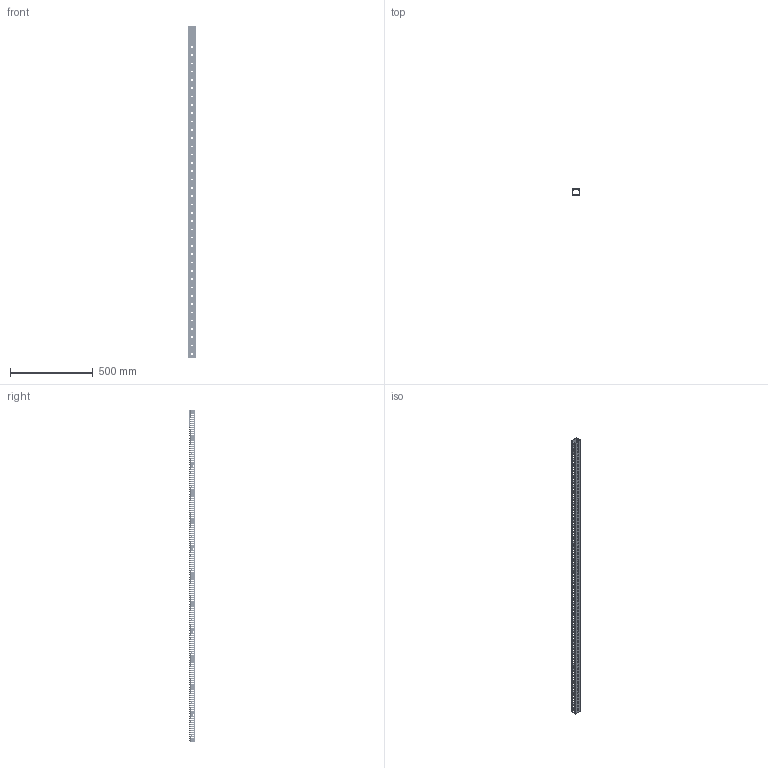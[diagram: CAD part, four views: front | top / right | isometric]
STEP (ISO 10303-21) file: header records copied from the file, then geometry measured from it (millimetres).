
FILE_DESCRIPTION (( 'STEP AP203' ), '1' );
FILE_NAME ('03-1683.STEP', '2021-04-21T08:43:42', ( '' ), ( '' ), 'SwSTEP 2.0', 'SolidWorks 2016', '' );
FILE_SCHEMA (( 'CONFIG_CONTROL_DESIGN' ));
Length unit declared in the file: millimetre
Products named in the file (3): 03-0513_A7-5; 03-0500_Lg 100; 03-1683
Assembly tree (2 placements, depth 2):
  03-1683
    03-0513_A7-5
    03-0500_Lg 100
Bounding box: 48 x 36 x 2000 mm (x, y, z)
Volume: 321249.9 mm3; surface area: 423573.2 mm2
Topology: 2 solids, 2 shells, 10601 faces, 32028 edges, 21352 vertices
Faces by surface type: cylinder 5334, plane 5267
Entity records: 363595 total; most frequent: CARTESIAN_POINT 90810, ORIENTED_EDGE 64056, DIRECTION 51108, EDGE_CURVE 32028, VERTEX_POINT 21352, LINE 19600, VECTOR 19600, AXIS2_PLACEMENT_3D 15754
